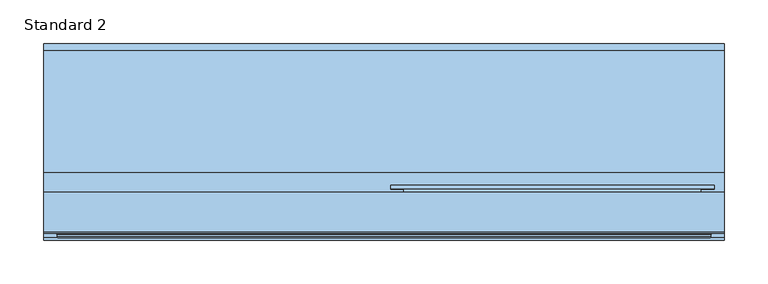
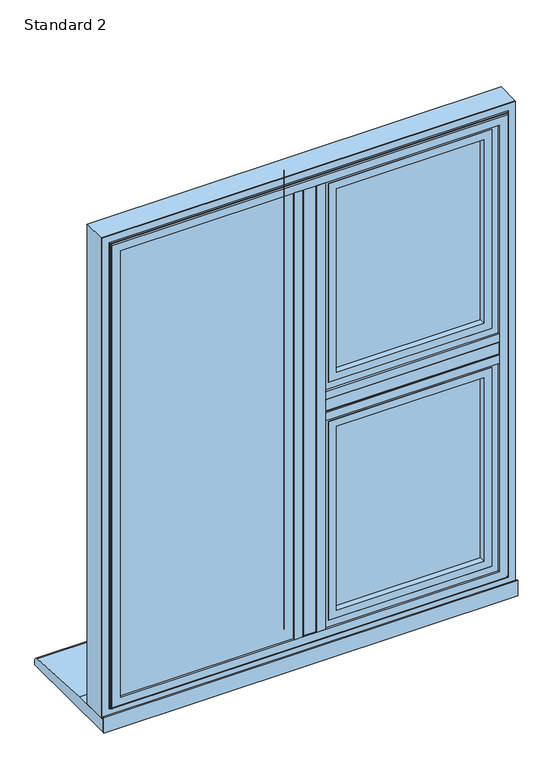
"""IFC4 building model written with IfcOpenShell, lengths in millimetres: window geometry, SMARTS_AlithermHeritage : Standard 2."""

from ifc_helpers import new_model, si_unit, point, frame, frame_2d, origin, place, context, project, spatial, polyline, circle_curve, ellipse_curve, trimmed, segment, composite_curve, outline, extrude, faceted_brep, source, transform, mapped, element, save
from ifc_brep_helpers import plane_surface, cylinder_surface, revolved_surface, advanced_brep


def standard_2_c3361aaf(model_context):
    return source(origin(), model_context, "Body", "SolidModel", [
        extrude(outline(polyline([(-13.6941456, 95.2798432), (13.6941456, 95.2798432), (13.6941456, 47.279476), (-13.6941456, 47.279476), (-13.6941456, 95.2798432)])), frame((0.0, 0.0, 652.6941456), z_axis=(0.0, 0.0, 1.0), x_axis=(1.0, 0.0, 0.0)), (0.0, 0.0, 1.0), 919.6117089),
        extrude(outline(composite_curve([segment(polyline([(-29.0, 47.279476), (29.0, 47.279476), (29.0, 43.2798432), (13.0, 43.2798432)]), True, "CONTINUOUS"), segment(trimmed(circle_curve(frame_2d((13.0, 44.2798432)), 1.0), [point((13.0, 43.2798432))], [point((12.0, 44.2798432))], False, "CARTESIAN"), True, "CONTINUOUS"), segment(polyline([(12.0, 44.2798432), (12.0, 45.7798432), (-12.0, 45.7798432), (-12.0, 44.2798432)]), True, "CONTINUOUS"), segment(trimmed(circle_curve(frame_2d((-13.0, 44.2798432)), 1.0), [point((-12.0, 44.2798432))], [point((-13.0, 43.2798432))], False, "CARTESIAN"), True, "CONTINUOUS"), segment(polyline([(-13.0, 43.2798432), (-29.0, 43.2798432), (-29.0, 47.279476)]), True, "CONTINUOUS")], self_intersect=False)), frame((0.0, 0.0, 668.0), z_axis=(0.0, 0.0, 1.0), x_axis=(1.0, 0.0, 0.0)), (0.0, 0.0, 1.0), 889.0),
        extrude(outline(polyline([(372.3058544, 95.2798432), (372.3058544, 47.279476), (13.6941456, 47.279476), (13.6941456, 95.2798432), (372.3058544, 95.2798432)])), frame((0.0, 0.0, 1098.8058544), z_axis=(0.0, 0.0, 1.0), x_axis=(1.0, 0.0, 0.0)), (0.0, 0.0, 1.0), 27.3882911),
        extrude(outline(composite_curve([segment(polyline([(47.279476, 1083.5), (43.2798432, 1083.5), (43.2798432, 1099.5)]), True, "CONTINUOUS"), segment(trimmed(circle_curve(frame_2d((44.2798432, 1099.5)), 1.0), [point((43.2798432, 1099.5))], [point((44.2798432, 1100.5))], False, "CARTESIAN"), True, "CONTINUOUS"), segment(polyline([(44.2798432, 1100.5), (45.7798432, 1100.5), (45.7798432, 1124.5), (44.2798432, 1124.5)]), True, "CONTINUOUS"), segment(trimmed(circle_curve(frame_2d((44.2798432, 1125.5)), 1.0), [point((44.2798432, 1124.5))], [point((43.2798432, 1125.5))], False, "CARTESIAN"), True, "CONTINUOUS"), segment(polyline([(43.2798432, 1125.5), (43.2798432, 1141.5), (47.279476, 1141.5), (47.279476, 1083.5)]), True, "CONTINUOUS")], self_intersect=False)), frame((29.0, 0.0, 0.0), z_axis=(1.0, 0.0, 0.0), x_axis=(0.0, 1.0, 0.0)), (0.0, 0.0, 1.0), 328.0),
        extrude(outline(polyline([(-367.0, 75.2798432), (-19.0, 75.2798432), (-19.0, 71.2798432), (-367.0, 71.2798432), (-367.0, 75.2798432)])), frame((0.0, 0.0, 658.0), z_axis=(0.0, 0.0, 1.0), x_axis=(1.0, 0.0, 0.0)), (0.0, 0.0, 1.0), 909.0),
        extrude(outline(polyline([(-367.0, 55.2798432), (-19.0, 55.2798432), (-19.0, 51.2798432), (-367.0, 51.2798432), (-367.0, 55.2798432)])), frame((0.0, 0.0, 658.0), z_axis=(0.0, 0.0, 1.0), x_axis=(1.0, 0.0, 0.0)), (0.0, 0.0, 1.0), 909.0),
        extrude(outline(polyline([(1567.0, -367.0), (658.0, -367.0), (658.0, -19.0), (1567.0, -19.0), (1567.0, -367.0)]), holes=[polyline([(1557.0, -29.0), (668.0, -29.0), (668.0, -357.0), (1557.0, -357.0), (1557.0, -29.0)])]), frame((0.0, 55.2798432, 0.0), z_axis=(0.0, 1.0, 0.0), x_axis=(0.0, 0.0, 1.0)), (0.0, 0.0, 1.0), 16.0),
        faceted_brep([(-19.1851151, 95.2798432, 1566.8148849), (-29.0, 78.2798098, 1557.0), (-357.0, 78.2798098, 1557.0), (-366.8148849, 95.2798432, 1566.8148849), (-13.6297324, 78.2798098, 1572.3702676), (-13.6297324, 95.2798432, 1572.3702676), (-372.3702676, 95.2798432, 1572.3702676), (-372.3702676, 78.2798098, 1572.3702676), (-372.3702676, 78.2798098, 652.6297324), (-372.3702676, 95.2798432, 652.6297324), (-13.6297324, 95.2798432, 652.6297324), (-13.6297324, 78.2798098, 652.6297324), (-366.8148849, 95.2798432, 658.1851151), (-19.1851151, 95.2798432, 658.1851151), (-29.0, 78.2798098, 668.0), (-357.0, 78.2798098, 668.0)], [[[0, 1, 2, 3]], [[4, 5, 6, 7]], [[8, 9, 10, 11]], [[5, 10, 9, 6], [3, 12, 13, 0]], [[7, 8, 11, 4], [1, 14, 15, 2]], [[3, 2, 15, 12]], [[7, 6, 9, 8]], [[12, 15, 14, 13]], [[13, 14, 1, 0]], [[11, 10, 5, 4]]]),
        extrude(outline(polyline([(42.5, 89.2798432), (343.5, 89.2798432), (343.5, 85.2798432), (42.5, 85.2798432), (42.5, 89.2798432)])), frame((0.0, 0.0, 681.5), z_axis=(0.0, 0.0, 1.0), x_axis=(1.0, 0.0, 0.0)), (0.0, 0.0, 1.0), 388.5),
        extrude(outline(polyline([(42.5, 69.2798432), (343.5, 69.2798432), (343.5, 65.2798432), (42.5, 65.2798432), (42.5, 69.2798432)])), frame((0.0, 0.0, 681.5), z_axis=(0.0, 0.0, 1.0), x_axis=(1.0, 0.0, 0.0)), (0.0, 0.0, 1.0), 388.5),
        extrude(outline(polyline([(1070.0, 42.5), (681.5, 42.5), (681.5, 343.5), (1070.0, 343.5), (1070.0, 42.5)]), holes=[polyline([(1060.0, 333.5), (691.5, 333.5), (691.5, 52.5), (1060.0, 52.5), (1060.0, 333.5)])]), frame((0.0, 69.2798432, 0.0), z_axis=(0.0, 1.0, 0.0), x_axis=(0.0, 0.0, 1.0)), (0.0, 0.0, 1.0), 16.0),
        extrude(outline(polyline([(1073.5052956, 38.9947044), (677.9947044, 38.9947044), (677.9947044, 347.0052956), (1073.5052956, 347.0052956), (1073.5052956, 38.9947044)]), holes=[polyline([(1058.5, 332.0), (693.0, 332.0), (693.0, 54.0), (1058.5, 54.0), (1058.5, 332.0)])]), frame((0.0, 51.2798432, 0.0), z_axis=(0.0, 1.0, 0.0), x_axis=(0.0, 0.0, 1.0)), (0.0, 0.0, 1.0), 11.3),
        extrude(outline(polyline([(662.3548042, 23.3548042), (662.3548042, 362.6451958), (1089.1451958, 362.6451958), (1089.1451958, 23.3548042), (662.3548042, 23.3548042)]), holes=[polyline([(1073.5, 39.0), (1073.5, 347.0), (678.0, 347.0), (678.0, 39.0), (1073.5, 39.0)])]), frame((0.0, 51.2798432, 0.0), z_axis=(0.0, 1.0, 0.0), x_axis=(0.0, 0.0, 1.0)), (0.0, 0.0, 1.0), 41.6),
        advanced_brep(
        [(54.0, 98.0798432, 1058.5), (54.0, 92.8798432, 1058.5), (54.0, 92.8798432, 693.0), (54.0, 98.0798432, 693.0), (332.0, 92.8798432, 693.0), (332.0, 98.0798432, 693.0), (332.0, 92.8798432, 1058.5), (332.0, 98.0798432, 1058.5), (7.8, 99.2798432, 1104.7), (7.8, 103.2798432, 1104.7), (7.8, 103.2798432, 646.8), (7.8, 99.2798432, 646.8), (378.2, 103.2798432, 646.8), (378.2, 99.2798432, 646.8), (378.2, 103.2798432, 1104.7), (378.2, 99.2798432, 1104.7), (22.8532343, 99.2798432, 1089.6467657), (363.1467657, 99.2798432, 1089.6467657), (363.1467657, 99.2798432, 661.8532343), (22.8532343, 99.2798432, 661.8532343), (36.8, 103.2798432, 675.8), (349.2, 103.2798432, 675.8), (349.2, 103.2798432, 1075.7), (36.8, 103.2798432, 1075.7), (22.8532343, 92.8798432, 1089.6467657), (22.8532343, 92.8798432, 661.8532343), (363.1467657, 92.8798432, 661.8532343), (363.1467657, 92.8798432, 1089.6467657), (38.8, 101.2798432, 1073.7), (38.8, 100.0798432, 1073.7), (38.8, 100.0798432, 677.8), (38.8, 101.2798432, 677.8), (40.8, 98.0798432, 1071.7), (40.8, 98.0798432, 679.8), (347.2, 100.0798432, 677.8), (347.2, 101.2798432, 677.8), (345.2, 98.0798432, 679.8), (347.2, 100.0798432, 1073.7), (347.2, 101.2798432, 1073.7), (345.2, 98.0798432, 1071.7)],
        [
            (0, 1),
            (1, 2),
            (2, 3),
            (3, 0),
            (2, 4),
            (4, 5),
            (5, 3),
            (4, 6),
            (6, 7),
            (7, 5),
            (6, 1),
            (0, 7),
            (8, 9),
            (9, 10),
            (10, 11),
            (11, 8),
            (10, 12),
            (12, 13),
            (13, 11),
            (12, 14),
            (14, 15),
            (15, 13),
            (15, 8),
            (16, 17),
            (17, 18),
            (18, 19),
            (19, 16),
            (14, 9),
            (20, 21),
            (21, 22),
            (22, 23),
            (23, 20),
            (24, 16),
            (19, 25),
            (25, 24),
            (18, 26),
            (26, 25),
            (17, 27),
            (27, 26),
            (27, 24),
            (28, 29),
            (29, 30),
            (30, 31),
            (31, 28),
            (29, 32, ellipse_curve(frame((40.8, 100.0798432, 1071.7), z_axis=(0.7071067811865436, 0.0, 0.7071067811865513), x_axis=(0.7071067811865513, 0.0, -0.7071067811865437)), 2.8284271, 2.0)),
            (32, 33),
            (33, 30, ellipse_curve(frame((40.8, 100.0798432, 679.8), z_axis=(0.7071067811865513, 0.0, -0.7071067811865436), x_axis=(-0.7071067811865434, 0.0, -0.7071067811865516)), 2.8284271, 2.0)),
            (30, 34),
            (34, 35),
            (35, 31),
            (33, 36),
            (36, 34, ellipse_curve(frame((345.2, 100.0798432, 679.8), z_axis=(0.7071067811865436, 0.0, 0.7071067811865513), x_axis=(0.7071067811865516, 0.0, -0.7071067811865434)), 2.8284271, 2.0)),
            (34, 37),
            (37, 38),
            (38, 35),
            (36, 39),
            (39, 37, ellipse_curve(frame((345.2, 100.0798432, 1071.7), z_axis=(-0.7071067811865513, 0.0, 0.7071067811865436), x_axis=(0.7071067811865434, 0.0, 0.7071067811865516)), 2.8284271, 2.0)),
            (32, 39),
            (37, 29),
            (28, 38),
            (23, 28, ellipse_curve(frame((36.8, 101.2798432, 1075.7), z_axis=(-0.7071067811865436, 0.0, -0.7071067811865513), x_axis=(-0.7071067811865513, 0.0, 0.7071067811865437)), 2.8284271, 2.0)),
            (31, 20, ellipse_curve(frame((36.8, 101.2798432, 675.8), z_axis=(-0.7071067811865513, 0.0, 0.7071067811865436), x_axis=(0.7071067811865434, 0.0, 0.7071067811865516)), 2.8284271, 2.0)),
            (35, 21, ellipse_curve(frame((349.2, 101.2798432, 675.8), z_axis=(-0.7071067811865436, 0.0, -0.7071067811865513), x_axis=(-0.7071067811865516, 0.0, 0.7071067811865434)), 2.8284271, 2.0)),
            (38, 22, ellipse_curve(frame((349.2, 101.2798432, 1075.7), z_axis=(0.7071067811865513, 0.0, -0.7071067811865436), x_axis=(-0.7071067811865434, 0.0, -0.7071067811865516)), 2.8284271, 2.0)),
        ],
        [
            plane_surface(frame((54.0, 92.8798432, 1058.5), z_axis=(1.0, 0.0, 0.0), x_axis=(0.0, 0.0, -1.0))),
            plane_surface(frame((54.0, 92.8798432, 693.0), z_axis=(0.0, 0.0, 1.0), x_axis=(1.0, 0.0, 0.0))),
            plane_surface(frame((332.0, 92.8798432, 693.0), z_axis=(-1.0, 0.0, 0.0), x_axis=(0.0, 0.0, 1.0))),
            plane_surface(frame((332.0, 92.8798432, 1058.5), z_axis=(0.0, 0.0, -1.0), x_axis=(-1.0, 0.0, 0.0))),
            plane_surface(frame((7.8, 103.2798432, 1104.7), z_axis=(-1.0, 0.0, 0.0), x_axis=(0.0, 0.0, -1.0))),
            plane_surface(frame((7.8, 103.2798432, 646.8), z_axis=(0.0, 0.0, -1.0), x_axis=(1.0, 0.0, 0.0))),
            plane_surface(frame((378.2, 103.2798432, 646.8), z_axis=(1.0, 0.0, 0.0), x_axis=(0.0, 0.0, 1.0))),
            plane_surface(frame((378.2, 99.2798432, 1104.7), z_axis=(0.0, -1.0, 0.0), x_axis=(-1.0, 0.0, 0.0))),
            plane_surface(frame((378.2, 103.2798432, 1104.7), z_axis=(0.0, 0.0, 1.0), x_axis=(-1.0, 0.0, 0.0))),
            plane_surface(frame((349.2, 103.2798432, 1075.7), z_axis=(0.0, 1.0, 0.0), x_axis=(-1.0, 0.0, 0.0))),
            plane_surface(frame((22.8532343, 99.2798432, 1089.6467657), z_axis=(-1.0, 0.0, 0.0), x_axis=(0.0, 0.0, -1.0))),
            plane_surface(frame((22.8532343, 99.2798432, 661.8532343), z_axis=(0.0, 0.0, -1.0), x_axis=(1.0, 0.0, 0.0))),
            plane_surface(frame((363.1467657, 99.2798432, 661.8532343), z_axis=(1.0, 0.0, 0.0), x_axis=(0.0, 0.0, 1.0))),
            plane_surface(frame((363.1467657, 92.8798432, 1089.6467657), z_axis=(0.0, -1.0, 0.0), x_axis=(-1.0, 0.0, 0.0))),
            plane_surface(frame((363.1467657, 99.2798432, 1089.6467657), z_axis=(0.0, 0.0, 1.0), x_axis=(-1.0, 0.0, 0.0))),
            plane_surface(frame((38.8, 100.0798432, 1073.7), z_axis=(1.0, 0.0, 0.0), x_axis=(0.0, 0.0, -1.0))),
            revolved_surface(polyline([(38.8, 100.0798432, 677.8), (38.8, 100.0798432, 1073.7)]), (40.8, 100.0798432, 1083.5), (0.0, 0.0, -1.0)),
            plane_surface(frame((38.8, 100.0798432, 677.8), z_axis=(0.0, 0.0, 1.0), x_axis=(1.0, 0.0, 0.0))),
            revolved_surface(polyline([(347.2, 100.0798432, 677.8), (38.8, 100.0798432, 677.8)]), (29.0, 100.0798432, 679.8), (1.0, 0.0, 0.0)),
            plane_surface(frame((347.2, 100.0798432, 677.8), z_axis=(-1.0, 0.0, 0.0), x_axis=(0.0, 0.0, 1.0))),
            revolved_surface(polyline([(347.2, 100.0798432, 1073.7), (347.2, 100.0798432, 677.8)]), (345.2, 100.0798432, 668.0), (0.0, 0.0, 1.0)),
            plane_surface(frame((332.0, 98.0798432, 1058.5), z_axis=(0.0, 1.0, 0.0), x_axis=(-1.0, 0.0, 0.0))),
            plane_surface(frame((347.2, 100.0798432, 1073.7), z_axis=(0.0, 0.0, -1.0), x_axis=(-1.0, 0.0, 0.0))),
            revolved_surface(polyline([(38.80000000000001, 100.0798432, 1073.7), (347.2, 100.0798432, 1073.7)]), (357.0, 100.0798432, 1071.7), (-1.0, 0.0, 0.0)),
            cylinder_surface(frame((36.8, 101.2798432, 1083.5), z_axis=(0.0, 0.0, 1.0), x_axis=(-1.0, 0.0, 0.0)), 2.0),
            cylinder_surface(frame((29.0, 101.2798432, 675.8), z_axis=(-1.0, 0.0, 0.0), x_axis=(0.0, 0.0, -1.0)), 2.0),
            cylinder_surface(frame((349.2, 101.2798432, 668.0), z_axis=(0.0, 0.0, -1.0), x_axis=(1.0, 0.0, 0.0)), 2.0),
            cylinder_surface(frame((357.0, 101.2798432, 1075.7), z_axis=(1.0, 0.0, 0.0), x_axis=(0.0, 0.0, 1.0)), 2.0),
        ],
        [
            (0, [[1, 2, 3, 4]]),
            (1, [[-3, 5, 6, 7]]),
            (2, [[-6, 8, 9, 10]]),
            (3, [[-9, 11, -1, 12]]),
            (4, [[13, 14, 15, 16]]),
            (5, [[-15, 17, 18, 19]]),
            (6, [[-18, 20, 21, 22]]),
            (7, [[-19, -22, 23, -16], [24, 25, 26, 27]]),
            (8, [[-21, 28, -13, -23]]),
            (9, [[-28, -20, -17, -14], [29, 30, 31, 32]]),
            (10, [[33, -27, 34, 35]]),
            (11, [[-34, -26, 36, 37]]),
            (12, [[-36, -25, 38, 39]]),
            (13, [[-37, -39, 40, -35], [-11, -8, -5, -2]]),
            (14, [[-38, -24, -33, -40]]),
            (15, [[41, 42, 43, 44]]),
            (16, [[45, 46, 47, -42]]),
            (17, [[-43, 48, 49, 50]]),
            (18, [[-47, 51, 52, -48]]),
            (19, [[-49, 53, 54, 55]]),
            (20, [[-52, 56, 57, -53]]),
            (21, [[58, -56, -51, -46], [-7, -10, -12, -4]]),
            (22, [[-54, 59, -41, 60]]),
            (23, [[-57, -58, -45, -59]]),
            (24, [[61, -44, 62, -32]]),
            (25, [[-62, -50, 63, -29]]),
            (26, [[-63, -55, 64, -30]]),
            (27, [[-64, -60, -61, -31]]),
        ],
    ),
        extrude(outline(polyline([(1590.0, 390.0), (1590.0, -390.0), (635.0, -390.0), (635.0, 390.0), (1590.0, 390.0)]), holes=[polyline([(652.7000182, 372.2999818), (652.7000182, -372.2999818), (1572.2999818, -372.2999818), (1572.2999818, 372.2999818), (652.7000182, 372.2999818)])]), frame((0.0, 50.279857, 0.0), z_axis=(0.0, 1.0, 0.0), x_axis=(0.0, 0.0, 1.0)), (0.0, 0.0, 1.0), 44.9999962),
        advanced_brep(
        [(357.0, 43.2798432, 1557.0), (357.0, 47.2798432, 1557.0), (357.0, 47.2798432, 668.0), (357.0, 43.2798432, 668.0), (390.0, 50.279857, 1590.0), (390.0, 48.279857, 1590.0), (390.0, 48.279857, 635.0), (390.0, 50.279857, 635.0), (372.4999818, 43.2798432, 1572.4999818), (-372.4999818, 43.2798432, 1572.4999818), (-372.4999818, 43.2798432, 652.5000182), (372.4999818, 43.2798432, 652.5000182), (-357.0, 43.2798432, 668.0), (-357.0, 43.2798432, 1557.0), (-390.0, 50.279857, 1590.0), (-390.0, 48.279857, 1590.0), (-390.0, 50.279857, 635.0), (372.2999818, 50.279857, 1572.2999818), (-372.2999818, 50.279857, 1572.2999818), (-372.2999818, 50.279857, 652.7000182), (372.2999818, 50.279857, 652.7000182), (-357.0, 47.2798432, 1557.0), (-357.0, 47.2798432, 668.0), (-390.0, 48.279857, 635.0), (-372.2999818, 47.2798432, 1572.2999818), (372.2999818, 47.2798432, 1572.2999818), (372.2999818, 47.2798432, 652.7000182), (374.4999818, 46.779857, 650.5000182), (374.4999818, 45.2798432, 650.5000182), (-374.4999818, 45.2798432, 650.5000182), (-374.4999818, 46.779857, 650.5000182), (374.4999818, 46.779857, 1574.4999818), (374.4999818, 45.2798432, 1574.4999818), (-372.2999818, 47.2798432, 652.7000182), (-374.4999818, 45.2798432, 1574.4999818), (-374.4999818, 46.779857, 1574.4999818), (375.9999818, 48.279857, 1575.9999818), (375.9999818, 48.279857, 649.0000182), (-375.9999818, 48.279857, 649.0000182), (-375.9999818, 48.279857, 1575.9999818)],
        [
            (0, 1),
            (1, 2),
            (2, 3),
            (3, 0),
            (4, 5),
            (5, 6),
            (6, 7),
            (7, 4),
            (8, 9),
            (9, 10),
            (10, 11),
            (11, 8),
            (3, 12),
            (12, 13),
            (13, 0),
            (14, 15),
            (15, 5),
            (4, 14),
            (7, 16),
            (16, 14),
            (17, 18),
            (18, 19),
            (19, 20),
            (20, 17),
            (13, 21),
            (21, 1),
            (2, 22),
            (22, 12),
            (22, 21),
            (6, 23),
            (23, 16),
            (23, 15),
            (24, 18),
            (17, 25),
            (25, 24),
            (20, 26),
            (26, 25),
            (27, 28),
            (28, 29),
            (29, 30),
            (30, 27),
            (31, 32),
            (32, 28),
            (27, 31),
            (19, 33),
            (33, 26),
            (24, 33),
            (29, 34),
            (34, 35),
            (35, 30),
            (34, 32),
            (31, 35),
            (36, 31, ellipse_curve(frame((375.9999818, 46.779857, 1575.9999818), z_axis=(-0.7071067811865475, 0.0, 0.7071067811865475), x_axis=(-0.7071067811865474, 0.0, -0.7071067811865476)), 2.1213203, 1.5)),
            (27, 37, ellipse_curve(frame((375.9999818, 46.779857, 649.0000182), z_axis=(-0.7071067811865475, 0.0, -0.7071067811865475), x_axis=(0.7071067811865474, 0.0, -0.7071067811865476)), 2.1213203, 1.5)),
            (37, 36),
            (30, 38, ellipse_curve(frame((-375.9999818, 46.779857, 649.0000182), z_axis=(-0.7071067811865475, 0.0, 0.7071067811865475), x_axis=(-0.7071067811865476, 0.0, -0.7071067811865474)), 2.1213203, 1.5)),
            (38, 37),
            (35, 39, ellipse_curve(frame((-375.9999818, 46.779857, 1575.9999818), z_axis=(0.7071067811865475, 0.0, 0.7071067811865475), x_axis=(-0.7071067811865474, 0.0, 0.7071067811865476)), 2.1213203, 1.5)),
            (39, 38),
            (36, 39),
            (32, 8, ellipse_curve(frame((372.4999818, 45.2798432, 1572.4999818), z_axis=(0.7071067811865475, 0.0, -0.7071067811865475), x_axis=(0.7071067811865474, 0.0, 0.7071067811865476)), 2.8284271, 2.0)),
            (11, 28, ellipse_curve(frame((372.4999818, 45.2798432, 652.5000182), z_axis=(0.7071067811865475, 0.0, 0.7071067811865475), x_axis=(-0.7071067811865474, 0.0, 0.7071067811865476)), 2.8284271, 2.0)),
            (10, 29, ellipse_curve(frame((-372.4999818, 45.2798432, 652.5000182), z_axis=(0.7071067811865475, 0.0, -0.7071067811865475), x_axis=(0.7071067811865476, 0.0, 0.7071067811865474)), 2.8284271, 2.0)),
            (9, 34, ellipse_curve(frame((-372.4999818, 45.2798432, 1572.4999818), z_axis=(-0.7071067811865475, 0.0, -0.7071067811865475), x_axis=(0.7071067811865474, 0.0, -0.7071067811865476)), 2.8284271, 2.0)),
        ],
        [
            plane_surface(frame((357.0, 47.2798432, 1557.0), z_axis=(-1.0, 0.0, 0.0), x_axis=(0.0, 0.0, -1.0))),
            plane_surface(frame((390.0, 48.279857, 1590.0), z_axis=(1.0, 0.0, 0.0), x_axis=(0.0, 0.0, -1.0))),
            plane_surface(frame((-357.0, 43.2798432, 1557.0), z_axis=(0.0, -1.0, 0.0), x_axis=(1.0, 0.0, 0.0))),
            plane_surface(frame((-390.0, 48.279857, 1590.0), z_axis=(0.0, 0.0, 1.0), x_axis=(1.0, 0.0, 0.0))),
            plane_surface(frame((-390.0, 50.279857, 1590.0), z_axis=(0.0, 1.0, 0.0), x_axis=(1.0, 0.0, 0.0))),
            plane_surface(frame((-357.0, 47.2798432, 1557.0), z_axis=(0.0, 0.0, -1.0), x_axis=(1.0, 0.0, 0.0))),
            plane_surface(frame((357.0, 47.2798432, 668.0), z_axis=(0.0, 0.0, 1.0), x_axis=(-1.0, 0.0, 0.0))),
            plane_surface(frame((-357.0, 47.2798432, 668.0), z_axis=(1.0, 0.0, 0.0), x_axis=(0.0, 0.0, 1.0))),
            plane_surface(frame((390.0, 48.279857, 635.0), z_axis=(0.0, 0.0, -1.0), x_axis=(-1.0, 0.0, 0.0))),
            plane_surface(frame((-390.0, 48.279857, 635.0), z_axis=(-1.0, 0.0, 0.0), x_axis=(0.0, 0.0, 1.0))),
            plane_surface(frame((-372.2999818, 50.279857, 1572.2999818), z_axis=(0.0, 0.0, -1.0), x_axis=(1.0, 0.0, 0.0))),
            plane_surface(frame((372.2999818, 50.279857, 1572.2999818), z_axis=(-1.0, 0.0, 0.0), x_axis=(0.0, 0.0, -1.0))),
            plane_surface(frame((374.4999818, 45.2798432, 650.5000182), z_axis=(0.0, 0.0, -1.0), x_axis=(-1.0, 0.0, 0.0))),
            plane_surface(frame((374.4999818, 45.2798432, 1574.4999818), z_axis=(1.0, 0.0, 0.0), x_axis=(0.0, 0.0, -1.0))),
            plane_surface(frame((372.2999818, 50.279857, 652.7000182), z_axis=(0.0, 0.0, 1.0), x_axis=(-1.0, 0.0, 0.0))),
            plane_surface(frame((-372.2999818, 50.279857, 652.7000182), z_axis=(1.0, 0.0, 0.0), x_axis=(0.0, 0.0, 1.0))),
            plane_surface(frame((-374.4999818, 45.2798432, 650.5000182), z_axis=(-1.0, 0.0, 0.0), x_axis=(0.0, 0.0, 1.0))),
            plane_surface(frame((-372.2999818, 47.2798432, 1572.2999818), z_axis=(0.0, 1.0, 0.0), x_axis=(1.0, 0.0, 0.0))),
            plane_surface(frame((-374.4999818, 45.2798432, 1574.4999818), z_axis=(0.0, 0.0, 1.0), x_axis=(1.0, 0.0, 0.0))),
            revolved_surface(polyline([(374.4999818, 46.779857, 647.5000182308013), (374.4999818, 46.779857, 1577.4999817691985)]), (375.9999818, 46.779857, 1590.0), (0.0, 0.0, -1.0)),
            revolved_surface(polyline([(-377.4999817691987, 46.779857, 650.5000182), (377.49998176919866, 46.779857, 650.5000182)]), (390.0, 46.779857, 649.0000182), (-1.0, 0.0, 0.0)),
            revolved_surface(polyline([(-374.4999818, 46.779857, 1577.4999817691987), (-374.4999818, 46.779857, 647.5000182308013)]), (-375.9999818, 46.779857, 635.0), (0.0, 0.0, 1.0)),
            revolved_surface(polyline([(377.4999817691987, 46.779857, 1574.4999818), (-377.49998176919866, 46.779857, 1574.4999818)]), (-390.0, 46.779857, 1575.9999818), (1.0, 0.0, 0.0)),
            plane_surface(frame((-375.9999818, 48.279857, 1575.9999818), z_axis=(0.0, -1.0, 0.0), x_axis=(1.0, 0.0, 0.0))),
            cylinder_surface(frame((372.4999818, 45.2798432, 1590.0), z_axis=(0.0, 0.0, 1.0), x_axis=(-1.0, 0.0, 0.0)), 2.0),
            cylinder_surface(frame((390.0, 45.2798432, 652.5000182), z_axis=(1.0, 0.0, 0.0), x_axis=(0.0, 0.0, 1.0)), 2.0),
            cylinder_surface(frame((-372.4999818, 45.2798432, 635.0), z_axis=(0.0, 0.0, -1.0), x_axis=(1.0, 0.0, 0.0)), 2.0),
            cylinder_surface(frame((-390.0, 45.2798432, 1572.4999818), z_axis=(-1.0, 0.0, 0.0), x_axis=(0.0, 0.0, -1.0)), 2.0),
        ],
        [
            (0, [[1, 2, 3, 4]]),
            (1, [[5, 6, 7, 8]]),
            (2, [[9, 10, 11, 12], [13, 14, 15, -4]]),
            (3, [[16, 17, -5, 18]]),
            (4, [[19, 20, -18, -8], [21, 22, 23, 24]]),
            (5, [[25, 26, -1, -15]]),
            (6, [[-3, 27, 28, -13]]),
            (7, [[-28, 29, -25, -14]]),
            (8, [[-7, 30, 31, -19]]),
            (9, [[-31, 32, -16, -20]]),
            (10, [[33, -21, 34, 35]]),
            (11, [[-34, -24, 36, 37]]),
            (12, [[38, 39, 40, 41]]),
            (13, [[42, 43, -38, 44]]),
            (14, [[-36, -23, 45, 46]]),
            (15, [[-45, -22, -33, 47]]),
            (16, [[-40, 48, 49, 50]]),
            (17, [[-46, -47, -35, -37], [-26, -29, -27, -2]]),
            (18, [[-49, 51, -42, 52]]),
            (19, [[53, -44, 54, 55]]),
            (20, [[-54, -41, 56, 57]]),
            (21, [[-56, -50, 58, 59]]),
            (22, [[-58, -52, -53, 60]]),
            (23, [[-17, -32, -30, -6], [-57, -59, -60, -55]]),
            (24, [[61, -12, 62, -43]]),
            (25, [[-62, -11, 63, -39]]),
            (26, [[-63, -10, 64, -48]]),
            (27, [[-64, -9, -61, -51]]),
        ],
    ),
        extrude(outline(polyline([(42.5, 89.2798432), (343.5, 89.2798432), (343.5, 85.2798432), (42.5, 85.2798432), (42.5, 89.2798432)])), frame((0.0, 0.0, 1155.0), z_axis=(0.0, 0.0, 1.0), x_axis=(1.0, 0.0, 0.0)), (0.0, 0.0, 1.0), 388.5),
        extrude(outline(polyline([(42.5, 69.2798432), (343.5, 69.2798432), (343.5, 65.2798432), (42.5, 65.2798432), (42.5, 69.2798432)])), frame((0.0, 0.0, 1155.0), z_axis=(0.0, 0.0, 1.0), x_axis=(1.0, 0.0, 0.0)), (0.0, 0.0, 1.0), 388.5),
        extrude(outline(polyline([(1543.5, 42.5), (1155.0, 42.5), (1155.0, 343.5), (1543.5, 343.5), (1543.5, 42.5)]), holes=[polyline([(1533.5, 333.5), (1165.0, 333.5), (1165.0, 52.5), (1533.5, 52.5), (1533.5, 333.5)])]), frame((0.0, 69.2798432, 0.0), z_axis=(0.0, 1.0, 0.0), x_axis=(0.0, 0.0, 1.0)), (0.0, 0.0, 1.0), 16.0),
        extrude(outline(polyline([(1547.0052956, 38.9947044), (1151.4947044, 38.9947044), (1151.4947044, 347.0052956), (1547.0052956, 347.0052956), (1547.0052956, 38.9947044)]), holes=[polyline([(1532.0, 332.0), (1166.5, 332.0), (1166.5, 54.0), (1532.0, 54.0), (1532.0, 332.0)])]), frame((0.0, 51.2798432, 0.0), z_axis=(0.0, 1.0, 0.0), x_axis=(0.0, 0.0, 1.0)), (0.0, 0.0, 1.0), 11.3),
        extrude(outline(polyline([(1135.8548042, 23.3548042), (1135.8548042, 362.6451958), (1562.6451958, 362.6451958), (1562.6451958, 23.3548042), (1135.8548042, 23.3548042)]), holes=[polyline([(1547.0, 39.0), (1547.0, 347.0), (1151.5, 347.0), (1151.5, 39.0), (1547.0, 39.0)])]), frame((0.0, 51.2798432, 0.0), z_axis=(0.0, 1.0, 0.0), x_axis=(0.0, 0.0, 1.0)), (0.0, 0.0, 1.0), 41.6),
        advanced_brep(
        [(54.0, 98.0798432, 1532.0), (54.0, 92.8798432, 1532.0), (54.0, 92.8798432, 1166.5), (54.0, 98.0798432, 1166.5), (332.0, 92.8798432, 1166.5), (332.0, 98.0798432, 1166.5), (332.0, 92.8798432, 1532.0), (332.0, 98.0798432, 1532.0), (7.8, 99.2798432, 1578.2), (7.8, 103.2798432, 1578.2), (7.8, 103.2798432, 1120.3), (7.8, 99.2798432, 1120.3), (378.2, 103.2798432, 1120.3), (378.2, 99.2798432, 1120.3), (378.2, 103.2798432, 1578.2), (378.2, 99.2798432, 1578.2), (22.8532343, 99.2798432, 1563.1467657), (363.1467657, 99.2798432, 1563.1467657), (363.1467657, 99.2798432, 1135.3532343), (22.8532343, 99.2798432, 1135.3532343), (36.8, 103.2798432, 1149.3), (349.2, 103.2798432, 1149.3), (349.2, 103.2798432, 1549.2), (36.8, 103.2798432, 1549.2), (22.8532343, 92.8798432, 1563.1467657), (22.8532343, 92.8798432, 1135.3532343), (363.1467657, 92.8798432, 1135.3532343), (363.1467657, 92.8798432, 1563.1467657), (38.8, 101.2798432, 1547.2), (38.8, 100.0798432, 1547.2), (38.8, 100.0798432, 1151.3), (38.8, 101.2798432, 1151.3), (40.8, 98.0798432, 1545.2), (40.8, 98.0798432, 1153.3), (347.2, 100.0798432, 1151.3), (347.2, 101.2798432, 1151.3), (345.2, 98.0798432, 1153.3), (347.2, 100.0798432, 1547.2), (347.2, 101.2798432, 1547.2), (345.2, 98.0798432, 1545.2)],
        [
            (0, 1),
            (1, 2),
            (2, 3),
            (3, 0),
            (2, 4),
            (4, 5),
            (5, 3),
            (4, 6),
            (6, 7),
            (7, 5),
            (6, 1),
            (0, 7),
            (8, 9),
            (9, 10),
            (10, 11),
            (11, 8),
            (10, 12),
            (12, 13),
            (13, 11),
            (12, 14),
            (14, 15),
            (15, 13),
            (15, 8),
            (16, 17),
            (17, 18),
            (18, 19),
            (19, 16),
            (14, 9),
            (20, 21),
            (21, 22),
            (22, 23),
            (23, 20),
            (24, 16),
            (19, 25),
            (25, 24),
            (18, 26),
            (26, 25),
            (17, 27),
            (27, 26),
            (27, 24),
            (28, 29),
            (29, 30),
            (30, 31),
            (31, 28),
            (29, 32, ellipse_curve(frame((40.8, 100.0798432, 1545.2), z_axis=(0.7071067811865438, 0.0, 0.7071067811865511), x_axis=(0.707106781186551, 0.0, -0.7071067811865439)), 2.8284271, 2.0)),
            (32, 33),
            (33, 30, ellipse_curve(frame((40.8, 100.0798432, 1153.3), z_axis=(0.7071067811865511, 0.0, -0.7071067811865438), x_axis=(-0.7071067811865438, 0.0, -0.7071067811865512)), 2.8284271, 2.0)),
            (30, 34),
            (34, 35),
            (35, 31),
            (33, 36),
            (36, 34, ellipse_curve(frame((345.2, 100.0798432, 1153.3), z_axis=(0.7071067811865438, 0.0, 0.7071067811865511), x_axis=(0.7071067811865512, 0.0, -0.7071067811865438)), 2.8284271, 2.0)),
            (34, 37),
            (37, 38),
            (38, 35),
            (36, 39),
            (39, 37, ellipse_curve(frame((345.2, 100.0798432, 1545.2), z_axis=(-0.7071067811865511, 0.0, 0.7071067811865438), x_axis=(0.7071067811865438, 0.0, 0.7071067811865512)), 2.8284271, 2.0)),
            (32, 39),
            (37, 29),
            (28, 38),
            (23, 28, ellipse_curve(frame((36.8, 101.2798432, 1549.2), z_axis=(-0.7071067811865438, 0.0, -0.7071067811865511), x_axis=(-0.707106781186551, 0.0, 0.7071067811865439)), 2.8284271, 2.0)),
            (31, 20, ellipse_curve(frame((36.8, 101.2798432, 1149.3), z_axis=(-0.7071067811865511, 0.0, 0.7071067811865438), x_axis=(0.7071067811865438, 0.0, 0.7071067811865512)), 2.8284271, 2.0)),
            (35, 21, ellipse_curve(frame((349.2, 101.2798432, 1149.3), z_axis=(-0.7071067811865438, 0.0, -0.7071067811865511), x_axis=(-0.7071067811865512, 0.0, 0.7071067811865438)), 2.8284271, 2.0)),
            (38, 22, ellipse_curve(frame((349.2, 101.2798432, 1549.2), z_axis=(0.7071067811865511, 0.0, -0.7071067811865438), x_axis=(-0.7071067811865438, 0.0, -0.7071067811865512)), 2.8284271, 2.0)),
        ],
        [
            plane_surface(frame((54.0, 92.8798432, 1532.0), z_axis=(1.0, 0.0, 0.0), x_axis=(0.0, 0.0, -1.0))),
            plane_surface(frame((54.0, 92.8798432, 1166.5), z_axis=(0.0, 0.0, 1.0), x_axis=(1.0, 0.0, 0.0))),
            plane_surface(frame((332.0, 92.8798432, 1166.5), z_axis=(-1.0, 0.0, 0.0), x_axis=(0.0, 0.0, 1.0))),
            plane_surface(frame((332.0, 92.8798432, 1532.0), z_axis=(0.0, 0.0, -1.0), x_axis=(-1.0, 0.0, 0.0))),
            plane_surface(frame((7.8, 103.2798432, 1578.2), z_axis=(-1.0, 0.0, 0.0), x_axis=(0.0, 0.0, -1.0))),
            plane_surface(frame((7.8, 103.2798432, 1120.3), z_axis=(0.0, 0.0, -1.0), x_axis=(1.0, 0.0, 0.0))),
            plane_surface(frame((378.2, 103.2798432, 1120.3), z_axis=(1.0, 0.0, 0.0), x_axis=(0.0, 0.0, 1.0))),
            plane_surface(frame((378.2, 99.2798432, 1578.2), z_axis=(0.0, -1.0, 0.0), x_axis=(-1.0, 0.0, 0.0))),
            plane_surface(frame((378.2, 103.2798432, 1578.2), z_axis=(0.0, 0.0, 1.0), x_axis=(-1.0, 0.0, 0.0))),
            plane_surface(frame((349.2, 103.2798432, 1549.2), z_axis=(0.0, 1.0, 0.0), x_axis=(-1.0, 0.0, 0.0))),
            plane_surface(frame((22.8532343, 99.2798432, 1563.1467657), z_axis=(-1.0, 0.0, 0.0), x_axis=(0.0, 0.0, -1.0))),
            plane_surface(frame((22.8532343, 99.2798432, 1135.3532343), z_axis=(0.0, 0.0, -1.0), x_axis=(1.0, 0.0, 0.0))),
            plane_surface(frame((363.1467657, 99.2798432, 1135.3532343), z_axis=(1.0, 0.0, 0.0), x_axis=(0.0, 0.0, 1.0))),
            plane_surface(frame((363.1467657, 92.8798432, 1563.1467657), z_axis=(0.0, -1.0, 0.0), x_axis=(-1.0, 0.0, 0.0))),
            plane_surface(frame((363.1467657, 99.2798432, 1563.1467657), z_axis=(0.0, 0.0, 1.0), x_axis=(-1.0, 0.0, 0.0))),
            plane_surface(frame((38.8, 100.0798432, 1547.2), z_axis=(1.0, 0.0, 0.0), x_axis=(0.0, 0.0, -1.0))),
            revolved_surface(polyline([(38.8, 100.0798432, 1151.3), (38.8, 100.0798432, 1547.2)]), (40.8, 100.0798432, 1557.0), (0.0, 0.0, -1.0)),
            plane_surface(frame((38.8, 100.0798432, 1151.3), z_axis=(0.0, 0.0, 1.0), x_axis=(1.0, 0.0, 0.0))),
            revolved_surface(polyline([(347.2, 100.0798432, 1151.3), (38.8, 100.0798432, 1151.3)]), (29.0, 100.0798432, 1153.3), (1.0, 0.0, 0.0)),
            plane_surface(frame((347.2, 100.0798432, 1151.3), z_axis=(-1.0, 0.0, 0.0), x_axis=(0.0, 0.0, 1.0))),
            revolved_surface(polyline([(347.2, 100.0798432, 1547.2), (347.2, 100.0798432, 1151.3)]), (345.2, 100.0798432, 1141.5), (0.0, 0.0, 1.0)),
            plane_surface(frame((332.0, 98.0798432, 1532.0), z_axis=(0.0, 1.0, 0.0), x_axis=(-1.0, 0.0, 0.0))),
            plane_surface(frame((347.2, 100.0798432, 1547.2), z_axis=(0.0, 0.0, -1.0), x_axis=(-1.0, 0.0, 0.0))),
            revolved_surface(polyline([(38.80000000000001, 100.0798432, 1547.2), (347.2, 100.0798432, 1547.2)]), (357.0, 100.0798432, 1545.2), (-1.0, 0.0, 0.0)),
            cylinder_surface(frame((36.8, 101.2798432, 1557.0), z_axis=(0.0, 0.0, 1.0), x_axis=(-1.0, 0.0, 0.0)), 2.0),
            cylinder_surface(frame((29.0, 101.2798432, 1149.3), z_axis=(-1.0, 0.0, 0.0), x_axis=(0.0, 0.0, -1.0)), 2.0),
            cylinder_surface(frame((349.2, 101.2798432, 1141.5), z_axis=(0.0, 0.0, -1.0), x_axis=(1.0, 0.0, 0.0)), 2.0),
            cylinder_surface(frame((357.0, 101.2798432, 1549.2), z_axis=(1.0, 0.0, 0.0), x_axis=(0.0, 0.0, 1.0)), 2.0),
        ],
        [
            (0, [[1, 2, 3, 4]]),
            (1, [[-3, 5, 6, 7]]),
            (2, [[-6, 8, 9, 10]]),
            (3, [[-9, 11, -1, 12]]),
            (4, [[13, 14, 15, 16]]),
            (5, [[-15, 17, 18, 19]]),
            (6, [[-18, 20, 21, 22]]),
            (7, [[-19, -22, 23, -16], [24, 25, 26, 27]]),
            (8, [[-21, 28, -13, -23]]),
            (9, [[-28, -20, -17, -14], [29, 30, 31, 32]]),
            (10, [[33, -27, 34, 35]]),
            (11, [[-34, -26, 36, 37]]),
            (12, [[-36, -25, 38, 39]]),
            (13, [[-37, -39, 40, -35], [-11, -8, -5, -2]]),
            (14, [[-38, -24, -33, -40]]),
            (15, [[41, 42, 43, 44]]),
            (16, [[45, 46, 47, -42]]),
            (17, [[-43, 48, 49, 50]]),
            (18, [[-47, 51, 52, -48]]),
            (19, [[-49, 53, 54, 55]]),
            (20, [[-52, 56, 57, -53]]),
            (21, [[58, -56, -51, -46], [-7, -10, -12, -4]]),
            (22, [[-54, 59, -41, 60]]),
            (23, [[-57, -58, -45, -59]]),
            (24, [[61, -44, 62, -32]]),
            (25, [[-62, -50, 63, -29]]),
            (26, [[-63, -55, 64, -30]]),
            (27, [[-64, -60, -61, -31]]),
        ],
    ),
        extrude(outline(polyline([(390.0, 43.2798432), (390.0, 40.7798432), (-390.0, 40.7798432), (-390.0, 43.2798432), (390.0, 43.2798432)])), frame((0.0, 0.0, 610.0), z_axis=(0.0, 0.0, 1.0), x_axis=(1.0, 0.0, 0.0)), (0.0, 0.0, 1.0), 31.0),
        extrude(outline(composite_curve([segment(polyline([(265.7798432, 610.0), (43.2798432, 610.0), (43.2798432, 635.0), (118.7798432, 635.0), (258.4770891, 625.9276664)]), True, "CONTINUOUS"), segment(trimmed(circle_curve(frame_2d((257.7798432, 617.9581088)), 8.0), [point((258.4770891, 625.9276664))], [point((265.7798432, 617.9581088))], False, "CARTESIAN"), True, "CONTINUOUS"), segment(polyline([(265.7798432, 617.9581088), (265.7798432, 610.0)]), True, "CONTINUOUS")], self_intersect=False)), frame((-390.0, 0.0, 0.0), z_axis=(1.0, 0.0, 0.0), x_axis=(0.0, 1.0, 0.0)), (0.0, 0.0, 1.0), 780.0),
    ])


if __name__ == "__main__":
    model = new_model("IFC4")
    model_context = context("Model", 3, world=origin())
    ifc_project = project(units=[si_unit("LENGTHUNIT", "METRE", prefix="MILLI")], contexts=[model_context])
    site = spatial("IfcSite", under=ifc_project)
    building = spatial("IfcBuilding", under=site)
    placement = place(None, origin())
    standard_2_shape = standard_2_c3361aaf(model_context)
    element("IfcWindow", 1, ObjectType="SMARTS_AlithermHeritage : Standard 2", at=placement, inside=building, context=model_context, shape_type="MappedRepresentation", body=[
        mapped(standard_2_shape, transform((0.0, 0.0, 0.0), x_axis=(1.0, 0.0, 0.0), y_axis=(0.0, 1.0, 0.0), z_axis=(0.0, 0.0, 1.0))),
    ])
    save(model, "model.ifc")
